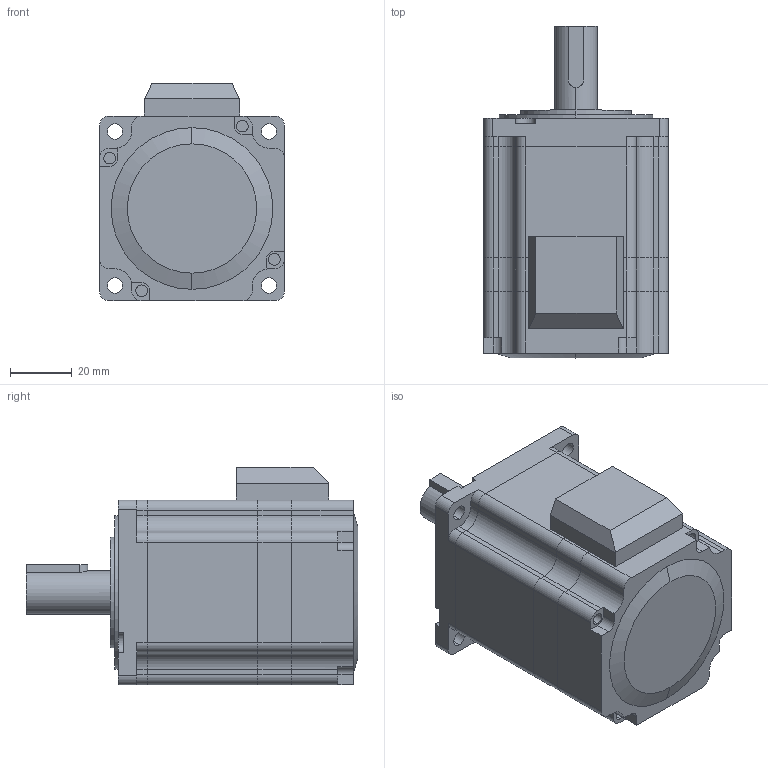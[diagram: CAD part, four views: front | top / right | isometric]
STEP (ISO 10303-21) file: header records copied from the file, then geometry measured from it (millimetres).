
FILE_DESCRIPTION (( 'STEP AP214' ), '1' );
FILE_NAME ('S60AM22（60HSM58D-K1430-012）.STEP', '2020-11-26T11:56:43', ( 'wimxt.com' ), ( 'wimxt.com' ), 'SwSTEP 2.0', 'SolidWorks 2014', '' );
FILE_SCHEMA (( 'AUTOMOTIVE_DESIGN' ));
Length unit declared in the file: millimetre
Products named in the file (7): 5X5X20瑩; 60-14ヶ裔; 60A3EC誘盄杶; 60呿蹋綴欶; 60A3EC菁釱; 60A3EC隅赽; S60AM22（60HSM58D-K1430-012）
Assembly tree (6 placements, depth 2):
  S60AM22（60HSM58D-K1430-012）
    60A3EC隅赽
    60A3EC菁釱
    60呿蹋綴欶
    60A3EC誘盄杶
    60-14ヶ裔
    5X5X20瑩
Bounding box: 60 x 107.8 x 70.7 mm (x, y, z)
Volume: 113699.1 mm3; surface area: 61905.3 mm2
Topology: 6 solids, 6 shells, 339 faces, 924 edges, 615 vertices
Faces by surface type: plane 172, cylinder 159, cone 4, torus 2, bspline 2
Entity records: 11843 total; most frequent: CARTESIAN_POINT 2507, DIRECTION 1931, ORIENTED_EDGE 1848, EDGE_CURVE 924, AXIS2_PLACEMENT_3D 678, VERTEX_POINT 615, VECTOR 575, LINE 575
